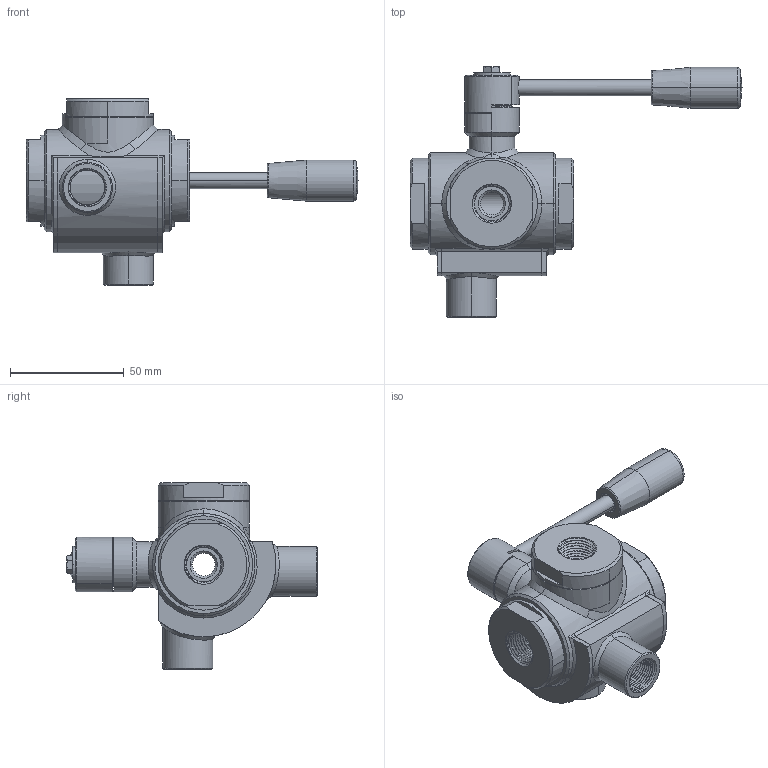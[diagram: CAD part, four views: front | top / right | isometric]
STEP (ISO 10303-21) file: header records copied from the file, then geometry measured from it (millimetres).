
FILE_DESCRIPTION((''),'2;1');
FILE_NAME('300101C60810_SW0001','2026-05-08T11:43:50',('tecnico2'),('CDM Tecnoconsulting'),'CREO PARAMETRIC BY PTC INC, 2024063','CREO PARAMETRIC BY PTC INC, 2024063','');
FILE_SCHEMA(('CONFIG_CONTROL_DESIGN','SHAPE_APPEARANCE_LAYERS_GROUPS'));
Products named in the file (1): 300101C60810_SW0001
Bounding box: 146 x 110.3 x 82 mm (x, y, z)
Volume: 141299.8 mm3; surface area: 60643 mm2
Topology: 1 solids, 3 shells, 1215 faces, 3274 edges, 2092 vertices
Faces by surface type: plane 434, cylinder 305, extrusion 158, cone 151, bspline 131, torus 32, sphere 4
Entity records: 110209 total; most frequent: CARTESIAN_POINT 68585, ORIENTED_EDGE 6504, DIRECTION 4789, PRESENTATION_STYLE_ASSIGNMENT 3796, STYLED_ITEM 3357, CURVE_STYLE 3354, EDGE_CURVE 3252, VERTEX_POINT 2092
